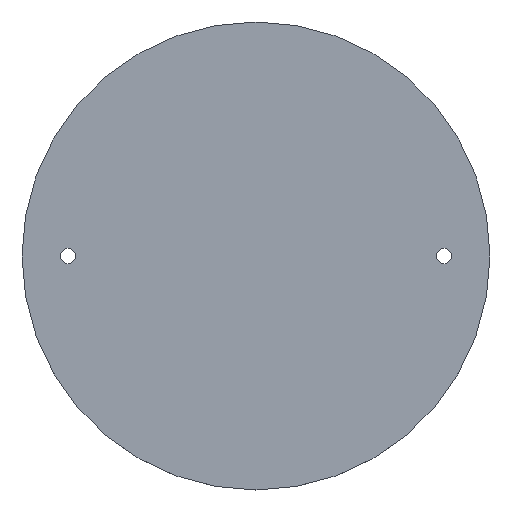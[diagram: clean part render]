
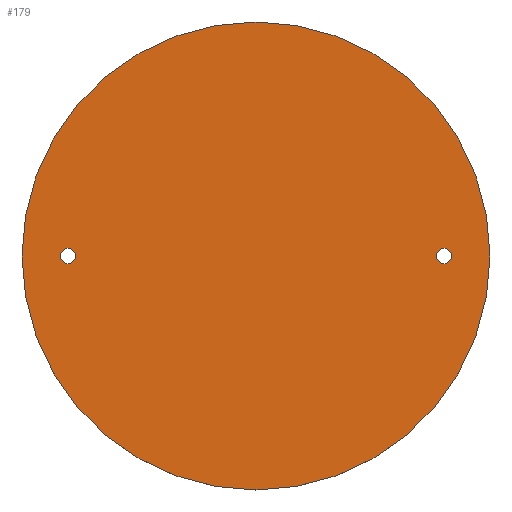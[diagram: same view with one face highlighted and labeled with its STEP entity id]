
A CAD part, top view. The second image highlights one B-rep face of the part: STEP entity #179.
In plain terms, the highlighted planar face has unit normal (0, 0, 1).
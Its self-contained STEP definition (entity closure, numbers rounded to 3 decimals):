
#24 = VERTEX_POINT('',#25);
#25 = CARTESIAN_POINT('',(61.,0.,3.));
#32 = CYLINDRICAL_SURFACE('',#33,61.);
#33 = AXIS2_PLACEMENT_3D('',#34,#35,#36);
#34 = CARTESIAN_POINT('',(0.,0.,0.));
#35 = DIRECTION('',(-0.,-0.,-1.));
#36 = DIRECTION('',(1.,0.,-0.));
#51 = EDGE_CURVE('',#24,#24,#52,.T.);
#52 = SURFACE_CURVE('',#53,(#58,#65),.PCURVE_S1.);
#53 = CIRCLE('',#54,61.);
#54 = AXIS2_PLACEMENT_3D('',#55,#56,#57);
#55 = CARTESIAN_POINT('',(0.,0.,3.));
#56 = DIRECTION('',(0.,0.,1.));
#57 = DIRECTION('',(1.,0.,-0.));
#58 = PCURVE('',#32,#59);
#59 = DEFINITIONAL_REPRESENTATION('',(#60),#64);
#60 = LINE('',#61,#62);
#61 = CARTESIAN_POINT('',(-0.,-3.));
#62 = VECTOR('',#63,1.);
#63 = DIRECTION('',(-1.,0.));
#64 = ( GEOMETRIC_REPRESENTATION_CONTEXT(2) 
PARAMETRIC_REPRESENTATION_CONTEXT() REPRESENTATION_CONTEXT('2D SPACE',''
  ) );
#65 = PCURVE('',#66,#71);
#66 = PLANE('',#67);
#67 = AXIS2_PLACEMENT_3D('',#68,#69,#70);
#68 = CARTESIAN_POINT('',(0.,0.,3.));
#69 = DIRECTION('',(0.,0.,1.));
#70 = DIRECTION('',(1.,0.,-0.));
#71 = DEFINITIONAL_REPRESENTATION('',(#72),#76);
#72 = CIRCLE('',#73,61.);
#73 = AXIS2_PLACEMENT_2D('',#74,#75);
#74 = CARTESIAN_POINT('',(0.,0.));
#75 = DIRECTION('',(1.,0.));
#76 = ( GEOMETRIC_REPRESENTATION_CONTEXT(2) 
PARAMETRIC_REPRESENTATION_CONTEXT() REPRESENTATION_CONTEXT('2D SPACE',''
  ) );
#133 = CYLINDRICAL_SURFACE('',#134,2.);
#134 = AXIS2_PLACEMENT_3D('',#135,#136,#137);
#135 = CARTESIAN_POINT('',(-49.,0.,-1.));
#136 = DIRECTION('',(-0.,-0.,-1.));
#137 = DIRECTION('',(1.,0.,0.));
#168 = CYLINDRICAL_SURFACE('',#169,2.);
#169 = AXIS2_PLACEMENT_3D('',#170,#171,#172);
#170 = CARTESIAN_POINT('',(49.,0.,-1.));
#171 = DIRECTION('',(-0.,-0.,-1.));
#172 = DIRECTION('',(1.,0.,0.));
#179 = ADVANCED_FACE('',(#180,#183,#213),#66,.T.);
#180 = FACE_BOUND('',#181,.T.);
#181 = EDGE_LOOP('',(#182));
#182 = ORIENTED_EDGE('',*,*,#51,.T.);
#183 = FACE_BOUND('',#184,.T.);
#184 = EDGE_LOOP('',(#185));
#185 = ORIENTED_EDGE('',*,*,#186,.T.);
#186 = EDGE_CURVE('',#187,#187,#189,.T.);
#187 = VERTEX_POINT('',#188);
#188 = CARTESIAN_POINT('',(-47.,0.,3.));
#189 = SURFACE_CURVE('',#190,(#195,#206),.PCURVE_S1.);
#190 = CIRCLE('',#191,2.);
#191 = AXIS2_PLACEMENT_3D('',#192,#193,#194);
#192 = CARTESIAN_POINT('',(-49.,0.,3.));
#193 = DIRECTION('',(0.,0.,-1.));
#194 = DIRECTION('',(1.,0.,0.));
#195 = PCURVE('',#66,#196);
#196 = DEFINITIONAL_REPRESENTATION('',(#197),#205);
#197 = ( BOUNDED_CURVE() B_SPLINE_CURVE(2,(#198,#199,#200,#201,#202,#203
,#204),.UNSPECIFIED.,.T.,.F.) B_SPLINE_CURVE_WITH_KNOTS((1,2,2,2,2,1),(
    -2.094,0.,2.094,4.189,6.283,
8.378),.UNSPECIFIED.) CURVE() GEOMETRIC_REPRESENTATION_ITEM() 
RATIONAL_B_SPLINE_CURVE((1.,0.5,1.,0.5,1.,0.5,1.)) REPRESENTATION_ITEM(
  '') );
#198 = CARTESIAN_POINT('',(-47.,0.));
#199 = CARTESIAN_POINT('',(-47.,-3.464));
#200 = CARTESIAN_POINT('',(-50.,-1.732));
#201 = CARTESIAN_POINT('',(-53.,0.));
#202 = CARTESIAN_POINT('',(-50.,1.732));
#203 = CARTESIAN_POINT('',(-47.,3.464));
#204 = CARTESIAN_POINT('',(-47.,0.));
#205 = ( GEOMETRIC_REPRESENTATION_CONTEXT(2) 
PARAMETRIC_REPRESENTATION_CONTEXT() REPRESENTATION_CONTEXT('2D SPACE',''
  ) );
#206 = PCURVE('',#133,#207);
#207 = DEFINITIONAL_REPRESENTATION('',(#208),#212);
#208 = LINE('',#209,#210);
#209 = CARTESIAN_POINT('',(-6.283,-4.));
#210 = VECTOR('',#211,1.);
#211 = DIRECTION('',(1.,-0.));
#212 = ( GEOMETRIC_REPRESENTATION_CONTEXT(2) 
PARAMETRIC_REPRESENTATION_CONTEXT() REPRESENTATION_CONTEXT('2D SPACE',''
  ) );
#213 = FACE_BOUND('',#214,.T.);
#214 = EDGE_LOOP('',(#215));
#215 = ORIENTED_EDGE('',*,*,#216,.T.);
#216 = EDGE_CURVE('',#217,#217,#219,.T.);
#217 = VERTEX_POINT('',#218);
#218 = CARTESIAN_POINT('',(51.,0.,3.));
#219 = SURFACE_CURVE('',#220,(#225,#236),.PCURVE_S1.);
#220 = CIRCLE('',#221,2.);
#221 = AXIS2_PLACEMENT_3D('',#222,#223,#224);
#222 = CARTESIAN_POINT('',(49.,0.,3.));
#223 = DIRECTION('',(0.,0.,-1.));
#224 = DIRECTION('',(1.,0.,0.));
#225 = PCURVE('',#66,#226);
#226 = DEFINITIONAL_REPRESENTATION('',(#227),#235);
#227 = ( BOUNDED_CURVE() B_SPLINE_CURVE(2,(#228,#229,#230,#231,#232,#233
,#234),.UNSPECIFIED.,.T.,.F.) B_SPLINE_CURVE_WITH_KNOTS((1,2,2,2,2,1),(
    -2.094,0.,2.094,4.189,6.283,
8.378),.UNSPECIFIED.) CURVE() GEOMETRIC_REPRESENTATION_ITEM() 
RATIONAL_B_SPLINE_CURVE((1.,0.5,1.,0.5,1.,0.5,1.)) REPRESENTATION_ITEM(
  '') );
#228 = CARTESIAN_POINT('',(51.,0.));
#229 = CARTESIAN_POINT('',(51.,-3.464));
#230 = CARTESIAN_POINT('',(48.,-1.732));
#231 = CARTESIAN_POINT('',(45.,0.));
#232 = CARTESIAN_POINT('',(48.,1.732));
#233 = CARTESIAN_POINT('',(51.,3.464));
#234 = CARTESIAN_POINT('',(51.,0.));
#235 = ( GEOMETRIC_REPRESENTATION_CONTEXT(2) 
PARAMETRIC_REPRESENTATION_CONTEXT() REPRESENTATION_CONTEXT('2D SPACE',''
  ) );
#236 = PCURVE('',#168,#237);
#237 = DEFINITIONAL_REPRESENTATION('',(#238),#242);
#238 = LINE('',#239,#240);
#239 = CARTESIAN_POINT('',(-6.283,-4.));
#240 = VECTOR('',#241,1.);
#241 = DIRECTION('',(1.,-0.));
#242 = ( GEOMETRIC_REPRESENTATION_CONTEXT(2) 
PARAMETRIC_REPRESENTATION_CONTEXT() REPRESENTATION_CONTEXT('2D SPACE',''
  ) );
